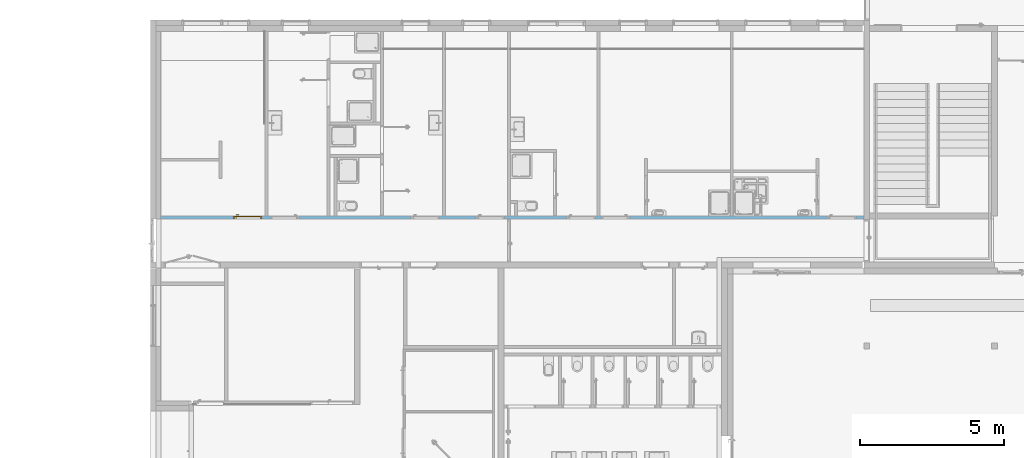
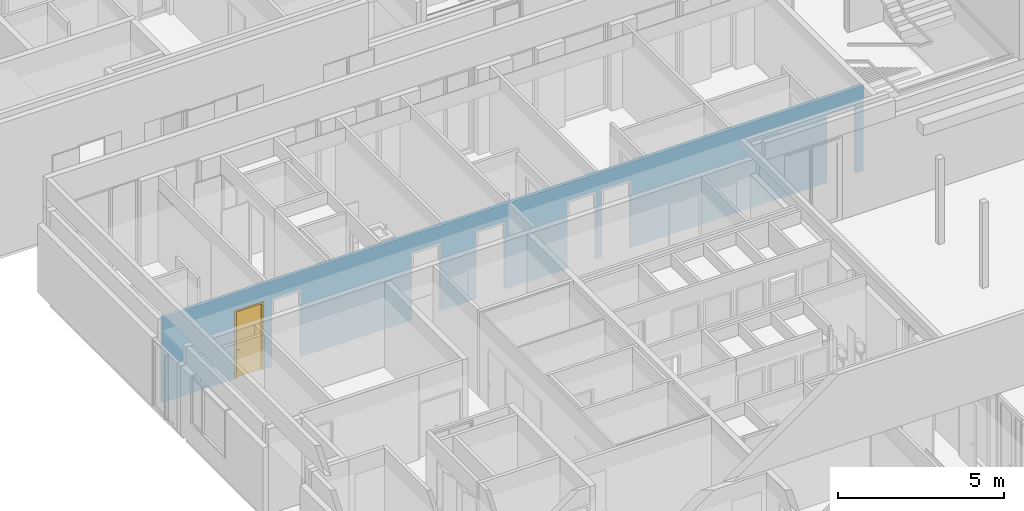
# One storey, part 108 of 240: 1 door, 7 openings, plus 1 element that does not belong to this part.
"""IFC2X3 building model written with IfcOpenShell, lengths in centimetres."""

from ifc_helpers import new_model, entity, si_unit, converted_unit, derived_unit, direction, frame, frame_2d, origin, place, context, subcontext, project, spatial, rectangle, extrude, faceted_brep, source, transform, mapped, material, material_list, layer, layer_set, layer_usage, type_object, type_shapes, element, fill, save


model = new_model("IFC2X3")

# Units and contexts
model_context = context("Model", 3, precision=0.001, world=origin(), true_north=direction((6.12303176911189e-17, 1.0)))
body_context = subcontext(model_context, "Body", "Model", "MODEL_VIEW")
ifc_project = project(units=[si_unit("LENGTHUNIT", "METRE", prefix="CENTI"), si_unit("AREAUNIT", "SQUARE_METRE"), si_unit("VOLUMEUNIT", "CUBIC_METRE"), converted_unit("PLANEANGLEUNIT", "DEGREE", entity("IfcRatioMeasure", 0.0174532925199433), si_unit("PLANEANGLEUNIT", "RADIAN"), dimensions=[0, 0, 0, 0, 0, 0, 0]), si_unit("MASSUNIT", "GRAM", prefix="KILO"), derived_unit("MASSDENSITYUNIT", [(si_unit("MASSUNIT", "GRAM", prefix="KILO"), 1), (si_unit("LENGTHUNIT", "METRE"), -3)]), si_unit("TIMEUNIT", "SECOND"), si_unit("FREQUENCYUNIT", "HERTZ"), si_unit("THERMODYNAMICTEMPERATUREUNIT", "DEGREE_CELSIUS"), derived_unit("THERMALTRANSMITTANCEUNIT", [(si_unit("MASSUNIT", "GRAM", prefix="KILO"), 1), (si_unit("THERMODYNAMICTEMPERATUREUNIT", "KELVIN"), -1), (si_unit("TIMEUNIT", "SECOND"), -3)]), derived_unit("VOLUMETRICFLOWRATEUNIT", [(si_unit("LENGTHUNIT", "METRE"), 3), (si_unit("TIMEUNIT", "SECOND"), -1)]), si_unit("ELECTRICCURRENTUNIT", "AMPERE"), si_unit("ELECTRICVOLTAGEUNIT", "VOLT"), si_unit("POWERUNIT", "WATT"), si_unit("FORCEUNIT", "NEWTON", prefix="KILO"), si_unit("ILLUMINANCEUNIT", "LUX"), si_unit("LUMINOUSFLUXUNIT", "LUMEN"), si_unit("LUMINOUSINTENSITYUNIT", "CANDELA"), derived_unit("USERDEFINED", [(si_unit("MASSUNIT", "GRAM", prefix="KILO"), -1), (si_unit("LENGTHUNIT", "METRE"), -2), (si_unit("TIMEUNIT", "SECOND"), 3), (si_unit("LUMINOUSFLUXUNIT", "LUMEN"), 1)]), derived_unit("LINEARVELOCITYUNIT", [(si_unit("LENGTHUNIT", "METRE"), 1), (si_unit("TIMEUNIT", "SECOND"), -1)]), si_unit("PRESSUREUNIT", "PASCAL"), derived_unit("USERDEFINED", [(si_unit("LENGTHUNIT", "METRE"), -2), (si_unit("MASSUNIT", "GRAM", prefix="KILO"), 1), (si_unit("TIMEUNIT", "SECOND"), -2)])], contexts=[model_context])

# Site, building, storey
site_placement = place(None, frame((-2781.94577612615, 7442.24238424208, 0.0)))
site = spatial("IfcSite", under=ifc_project, at=site_placement, Name="Default", CompositionType="ELEMENT")
building_placement = place(site_placement, origin())
building = spatial("IfcBuilding", under=site, at=building_placement, CompositionType="ELEMENT")
storey_placement = place(building_placement, origin())
storey = spatial("IfcBuildingStorey", under=building, at=storey_placement, Name="N00 - COO", CompositionType="ELEMENT", Elevation=0.0)

# Wall, openings, door
ifc_material_1 = material(Name="01 - Enduit/Plâtre")
ifc_layer_1 = layer(ifc_material_1, 1.3)
ifc_material_2 = material(Name="00 - Isolant")
ifc_layer_2 = layer(ifc_material_2, 7.4)
ifc_layer_3 = layer(ifc_material_1, 1.3)
ifc_layer_set = layer_set([ifc_layer_1, ifc_layer_2, ifc_layer_3], Name="Mur de base:06 - cloisons - Ba13 10cm")
ifc_layer_usage = layer_usage(ifc_layer_set, "AXIS2", "NEGATIVE", 5.0)
wall_type = type_object("IfcWallType", Name="Mur de base:06 - cloisons - Ba13 10cm", PredefinedType="STANDARD", material=ifc_layer_set)
wall_placement = place(building_placement, frame((-10866.3130476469, -1755.0, 0.0)))
wall = element("IfcWallStandardCase", 1, at=wall_placement, inside=storey, type_object=wall_type, material=ifc_layer_usage, Name="Mur de base:06 - cloisons - Ba13 10cm", ObjectType="Mur de base:06 - cloisons - Ba13 10cm", context=body_context, shape_type="SweptSolid", body=[
    extrude(rectangle(XDim=2435.48317594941, YDim=9.99999999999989, at=frame_2d((1217.7415879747, 3.37507799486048e-14), x_axis=(-1.0, 0.0))), origin(), (0.0, 0.0, 1.0), 313.0),
])
opening_1_placement = place(wall_placement, frame((2309.31316997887, -5.0, 0.0)))
element("IfcOpeningElement", 2, at=opening_1_placement, cuts=wall, Name="Int. Simple:PP simple (0.93m x 2.50m):1", ObjectType="Opening", context=body_context, shape_type="SweptSolid", body=[
    extrude(rectangle(XDim=248.500000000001, YDim=99.9999999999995, at=frame_2d((124.250000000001, 49.9999999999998), x_axis=(1.0, 0.0))), frame((0.0, 0.0, 0.0), z_axis=(0.0, 1.0, 0.0), x_axis=(0.0, 0.0, 1.0)), (0.0, 0.0, 1.0), 10.0),
])
opening_2_placement = place(wall_placement, frame((1527.31316997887, -5.0, 0.0)))
element("IfcOpeningElement", 3, at=opening_2_placement, cuts=wall, Name="Int. Simple:PP simple (0.93m x 2.50m):1", ObjectType="Opening", context=body_context, shape_type="SweptSolid", body=[
    extrude(rectangle(XDim=248.500000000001, YDim=99.9999999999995, at=frame_2d((124.250000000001, 50.0), x_axis=(1.0, 0.0))), frame((0.0, 0.0, 0.0), z_axis=(0.0, 1.0, 0.0), x_axis=(0.0, 0.0, 1.0)), (0.0, 0.0, 1.0), 10.0),
])
opening_3_placement = place(wall_placement, frame((1406.81316997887, -5.0, 0.0)))
element("IfcOpeningElement", 4, at=opening_3_placement, cuts=wall, Name="Int. Simple:PP simple (0.93m x 2.50m):1", ObjectType="Opening", context=body_context, shape_type="SweptSolid", body=[
    extrude(rectangle(XDim=248.500000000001, YDim=99.9999999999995, at=frame_2d((124.250000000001, 49.9999999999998), x_axis=(1.0, 0.0))), frame((0.0, 0.0, 0.0), z_axis=(0.0, 1.0, 0.0), x_axis=(0.0, 0.0, 1.0)), (0.0, 0.0, 1.0), 10.0),
])
opening_4_placement = place(wall_placement, frame((1091.81316997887, -5.0, 0.0)))
element("IfcOpeningElement", 5, at=opening_4_placement, cuts=wall, Name="Int. Simple:PP simple (0.93m x 2.50m):1", ObjectType="Opening", context=body_context, shape_type="SweptSolid", body=[
    extrude(rectangle(XDim=248.500000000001, YDim=99.9999999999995, at=frame_2d((124.250000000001, 49.9999999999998), x_axis=(1.0, 0.0))), frame((0.0, 0.0, 0.0), z_axis=(0.0, 1.0, 0.0), x_axis=(0.0, 0.0, 1.0)), (0.0, 0.0, 1.0), 10.0),
])
opening_5_placement = place(wall_placement, frame((866.813169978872, -5.0, 0.0)))
element("IfcOpeningElement", 6, at=opening_5_placement, cuts=wall, Name="Int. Simple:PP simple (0.93m x 2.50m):1", ObjectType="Opening", context=body_context, shape_type="SweptSolid", body=[
    extrude(rectangle(XDim=248.500000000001, YDim=99.9999999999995, at=frame_2d((124.250000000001, 49.9999999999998), x_axis=(1.0, 0.0))), frame((0.0, 0.0, 0.0), z_axis=(0.0, 1.0, 0.0), x_axis=(0.0, 0.0, 1.0)), (0.0, 0.0, 1.0), 10.0),
])
opening_6_placement = place(wall_placement, frame((381.813169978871, -5.0, 0.0)))
element("IfcOpeningElement", 7, at=opening_6_placement, cuts=wall, Name="Int. Simple:PP simple (0.93m x 2.50m):1", ObjectType="Opening", context=body_context, shape_type="SweptSolid", body=[
    extrude(rectangle(XDim=248.500000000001, YDim=99.9999999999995, at=frame_2d((124.250000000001, 50.0), x_axis=(1.0, 0.0))), frame((0.0, 0.0, 0.0), z_axis=(0.0, 1.0, 0.0), x_axis=(0.0, 0.0, 1.0)), (0.0, 0.0, 1.0), 10.0),
])
opening_7_placement = place(wall_placement, frame((251.813169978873, -5.0, 0.0)))
opening_7 = element("IfcOpeningElement", 8, at=opening_7_placement, cuts=wall, Name="Int. Simple:PP simple (0.93m x 2.50m):1", ObjectType="Opening", context=body_context, shape_type="SweptSolid", body=[
    extrude(rectangle(XDim=248.500000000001, YDim=99.9999999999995, at=frame_2d((124.250000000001, 49.9999999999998), x_axis=(1.0, 0.0))), frame((0.0, 0.0, 0.0), z_axis=(0.0, 1.0, 0.0), x_axis=(0.0, 0.0, 1.0)), (0.0, 0.0, 1.0), 10.0),
])
ifc_material_3 = material(Name="Finition Peinture - Blanc satiné")
ifc_material_4 = material(Name="Bois - Panneau de porte")
ifc_material_5 = material(Name="Bois - Cadre de porte")
ifc_material_list_1 = material_list([ifc_material_3, ifc_material_4, ifc_material_5])
ifc_material_list_2 = material_list([ifc_material_3, ifc_material_4, ifc_material_5])
door_style = type_object("IfcDoorStyle", Name="PP simple (0.93m x 2.50m)", ConstructionType="NOTDEFINED", OperationType="SINGLE_SWING_RIGHT", ParameterTakesPrecedence=False, Sizeable=False, material=ifc_material_list_2)
shared_shape = source(origin(), body_context, "Body", "Brep", [
    faceted_brep([(99.5000000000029, -0.500000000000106, 87.0), (99.5000000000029, -0.500000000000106, 108.0), (98.535276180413, -0.500000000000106, 108.399601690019), (97.5000000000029, -0.500000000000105, 108.535898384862), (96.4647238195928, -0.500000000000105, 108.399601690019), (95.500000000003, -0.500000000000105, 108.0), (95.5000000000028, -0.500000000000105, 87.0), (96.4647238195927, -0.500000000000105, 86.6003983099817), (97.5000000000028, -0.500000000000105, 86.464101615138), (98.5352761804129, -0.500000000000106, 86.6003983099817), (99.5000000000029, 0.0, 108.0), (99.5000000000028, 0.0, 87.0), (98.5352761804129, 0.0, 86.6003983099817), (97.5000000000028, 0.0, 86.464101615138), (96.4647238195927, 0.0, 86.6003983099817), (95.5000000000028, 0.0, 87.0), (95.5000000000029, 0.0, 108.0), (96.4647238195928, 0.0, 108.399601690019), (97.5000000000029, 0.0, 108.535898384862), (98.535276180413, 0.0, 108.399601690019)], [[[0, 1, 2, 3, 4, 5, 6, 7, 8, 9]], [[10, 11, 12, 13, 14, 15, 16, 17, 18, 19]], [[9, 12, 11, 0]], [[8, 13, 12, 9]], [[7, 14, 13, 8]], [[7, 6, 15, 14]], [[15, 6, 5, 16]], [[4, 17, 16, 5]], [[3, 18, 17, 4]], [[2, 19, 18, 3]], [[2, 1, 10, 19]], [[11, 10, 1, 0]]]),
    faceted_brep([(99.5000000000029, 4.0, 87.0), (99.5000000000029, 4.0, 108.0), (98.535276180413, 4.0, 108.399601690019), (97.5000000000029, 4.0, 108.535898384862), (96.4647238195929, 4.0, 108.399601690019), (95.500000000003, 4.0, 108.0), (95.5000000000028, 4.0, 87.0), (96.4647238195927, 4.0, 86.6003983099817), (97.5000000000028, 4.0, 86.464101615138), (98.5352761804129, 4.0, 86.6003983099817), (97.5000000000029, 4.49999999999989, 108.535898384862), (98.535276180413, 4.49999999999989, 108.399601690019), (99.5000000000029, 4.49999999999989, 108.0), (99.5000000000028, 4.49999999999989, 87.0), (98.5352761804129, 4.49999999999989, 86.6003983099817), (97.5000000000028, 4.49999999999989, 86.464101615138), (96.4647238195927, 4.49999999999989, 86.6003983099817), (95.5000000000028, 4.49999999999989, 87.0), (95.500000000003, 4.49999999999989, 108.0), (96.4647238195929, 4.49999999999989, 108.399601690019)], [[[0, 1, 2, 3, 4, 5, 6, 7, 8, 9]], [[10, 11, 12, 13, 14, 15, 16, 17, 18, 19]], [[4, 19, 18, 5]], [[3, 10, 19, 4]], [[2, 11, 10, 3]], [[2, 1, 12, 11]], [[13, 12, 1, 0]], [[9, 14, 13, 0]], [[8, 15, 14, 9]], [[7, 16, 15, 8]], [[7, 6, 17, 16]], [[17, 6, 5, 18]]]),
    faceted_brep([(97.2974701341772, -0.50000000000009, 100.778044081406), (97.7025298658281, -0.500000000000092, 100.778044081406), (98.1000000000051, -0.500000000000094, 100.699999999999), (98.100000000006, -0.500000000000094, 99.2999999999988), (97.7025298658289, -0.500000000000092, 99.221955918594), (97.297470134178, -0.50000000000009, 99.2219559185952), (96.9000000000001, -0.500000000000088, 99.3000000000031), (96.9000000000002, -0.500000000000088, 100.7), (97.7025298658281, -3.10045754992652, 100.778044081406), (98.1000000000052, -3.26509507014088, 100.7), (97.2974701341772, -2.93267631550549, 100.778044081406), (95.9298602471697, -4.30028620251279, 100.778044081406), (96.0976414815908, -4.70534593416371, 100.778044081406), (96.9000000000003, -2.76803879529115, 100.7), (96.9000000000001, -2.76803879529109, 99.3000000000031), (97.297470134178, -2.93267631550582, 99.2219559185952), (97.7025298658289, -3.10045754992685, 99.221955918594), (96.0976414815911, -4.70534593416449, 99.221955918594), (95.9298602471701, -4.30028620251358, 99.2219559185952), (98.100000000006, -3.26509507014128, 99.2999999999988), (96.2622790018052, -5.10281606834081, 100.7), (95.7652227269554, -3.90281606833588, 100.7), (95.7652227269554, -3.90281606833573, 99.3000000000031), (96.2622790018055, -5.10281606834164, 99.2999999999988), (87.4981359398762, -5.10281606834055, 100.7), (87.4981359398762, -4.70534593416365, 100.778044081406), (87.4981359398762, -4.30028620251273, 100.778044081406), (87.4981359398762, -3.90281606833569, 100.699999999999), (87.4981359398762, -3.90281606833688, 99.3000000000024), (87.4981359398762, -4.30028620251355, 99.2219559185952), (87.4981359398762, -4.70534593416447, 99.221955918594), (87.4981359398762, -5.10281606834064, 99.2999999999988), (91.7139980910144, -4.5028160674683, 100.78786867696), (92.2692302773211, -5.1028160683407, 100.7), (91.6316793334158, -3.9028160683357, 100.7), (91.631679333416, -3.9028160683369, 99.3000000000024), (91.7139981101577, -4.50281607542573, 99.2121313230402), (92.2692310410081, -5.10281606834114, 99.2999999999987)], [[[0, 1, 2, 3, 4, 5, 6, 7]], [[2, 1, 8, 9]], [[1, 0, 10, 11, 12, 8]], [[0, 7, 13, 10]], [[14, 13, 7, 6]], [[5, 15, 14, 6]], [[5, 4, 16, 17, 18, 15]], [[3, 19, 16, 4]], [[9, 19, 3, 2]], [[9, 8, 12, 20]], [[10, 13, 21, 11]], [[22, 21, 13, 14]], [[14, 15, 18, 22]], [[16, 19, 23, 17]], [[20, 23, 19, 9]], [[24, 25, 26, 27, 28, 29, 30, 31]], [[32, 25, 33]], [[33, 25, 24]], [[33, 20, 12]], [[11, 34, 32]], [[34, 11, 21]], [[27, 26, 34]], [[32, 26, 25]], [[32, 34, 26]], [[32, 33, 12]], [[11, 32, 12]], [[21, 22, 35, 28, 27, 34]], [[36, 29, 35]], [[30, 36, 37]], [[18, 35, 22]], [[29, 28, 35]], [[30, 37, 31]], [[37, 17, 23]], [[36, 17, 37]], [[36, 18, 17]], [[36, 35, 18]], [[29, 36, 30]], [[23, 20, 33, 24, 31, 37]]]),
    faceted_brep([(97.2974701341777, 4.49999999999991, 99.2219559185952), (97.7025298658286, 4.49999999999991, 99.221955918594), (98.1000000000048, 4.4999999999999, 99.2999999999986), (98.1000000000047, 4.4999999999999, 100.7), (97.7025298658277, 4.49999999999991, 100.778044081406), (97.2974701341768, 4.49999999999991, 100.778044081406), (96.8999999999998, 4.49999999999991, 100.7), (96.900000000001, 4.49999999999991, 99.3000000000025), (96.8999999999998, 6.7485204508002, 100.7), (96.8999999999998, 6.74852045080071, 99.3000000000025), (97.2974701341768, 6.91315797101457, 100.778044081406), (97.7025298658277, 7.0809392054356, 100.778044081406), (96.0838906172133, 8.69957845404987, 100.778044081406), (95.9161093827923, 8.29451872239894, 100.778044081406), (98.1000000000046, 7.24557672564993, 100.7), (98.1000000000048, 7.24557672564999, 99.2999999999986), (97.7025298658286, 7.08093920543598, 99.221955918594), (97.2974701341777, 6.91315797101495, 99.2219559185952), (95.9161093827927, 8.29451872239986, 99.2219559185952), (96.0838906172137, 8.69957845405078, 99.221955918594), (95.751471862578, 7.89704858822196, 100.7), (95.7514718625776, 7.89704858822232, 99.3000000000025), (96.2485281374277, 9.09704858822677, 100.7), (96.2485281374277, 9.09704858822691, 99.2999999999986), (87.4954216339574, 8.29451872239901, 100.778044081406), (87.4954216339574, 8.69957845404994, 100.778044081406), (87.4954216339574, 9.09704858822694, 100.7), (87.4954216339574, 9.09704858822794, 99.2999999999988), (87.4954216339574, 8.6995784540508, 99.221955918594), (87.4954216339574, 8.29451872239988, 99.2219559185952), (87.4954216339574, 7.89704858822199, 99.3000000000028), (87.4954216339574, 7.89704858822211, 100.7), (91.6234467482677, 7.89704858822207, 100.7), (91.6234479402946, 7.89704858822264, 99.3000000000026), (91.7057655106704, 8.49704858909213, 100.78786867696), (92.255479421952, 9.09704858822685, 100.7), (92.2554795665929, 9.09704858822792, 99.2999999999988), (91.7057654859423, 8.49704858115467, 99.2121313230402)], [[[0, 1, 2, 3, 4, 5, 6, 7]], [[8, 9, 7, 6]], [[5, 10, 8, 6]], [[5, 4, 11, 12, 13, 10]], [[3, 14, 11, 4]], [[14, 3, 2, 15]], [[2, 1, 16, 15]], [[1, 0, 17, 18, 19, 16]], [[0, 7, 9, 17]], [[20, 21, 9, 8]], [[8, 10, 13, 20]], [[14, 22, 12, 11]], [[23, 22, 14, 15]], [[15, 16, 19, 23]], [[17, 9, 21, 18]], [[24, 25, 26, 27, 28, 29, 30, 31]], [[21, 20, 32, 31, 30, 33]], [[34, 24, 32]], [[25, 34, 35]], [[13, 32, 20]], [[24, 31, 32]], [[25, 35, 26]], [[35, 12, 22]], [[34, 12, 35]], [[34, 13, 12]], [[34, 32, 13]], [[24, 34, 25]], [[22, 23, 36, 27, 26, 35]], [[37, 28, 36]], [[36, 28, 27]], [[36, 23, 19]], [[18, 33, 37]], [[33, 18, 21]], [[30, 29, 33]], [[37, 29, 28]], [[37, 33, 29]], [[37, 36, 19]], [[18, 37, 19]]]),
    faceted_brep([(103.500000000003, 4.0, 245.0), (103.500000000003, 4.0, 0.0), (10.5000000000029, 4.0, 0.0), (10.5000000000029, 4.0, 245.0), (103.500000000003, 0.0, 245.0), (10.5000000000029, 0.0, 245.0), (10.5000000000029, 0.0, 0.0), (103.500000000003, 0.0, 0.0)], [[[0, 1, 2, 3]], [[4, 5, 6, 7]], [[3, 5, 4, 0]], [[2, 6, 5, 3]], [[1, 7, 6, 2]], [[0, 4, 7, 1]]]),
    faceted_brep([(107.0, 10.0, 0.0), (107.0, 0.0, 0.0), (108.500000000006, 0.0, 0.0), (108.500000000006, -0.500000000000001, 0.0), (103.500000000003, -0.500000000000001, 0.0), (103.500000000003, 4.0, 0.0), (102.0, 4.0, 0.0), (102.0, 10.5000000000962, 0.0), (108.500000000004, 10.5000000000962, 0.0), (108.500000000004, 10.0, 0.0), (107.0, 10.0, 248.500000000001), (107.0, 0.0, 248.500000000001), (108.500000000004, 10.0, 250.0), (5.50000000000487, 10.0, 250.0), (5.50000000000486, 10.0, 0.0), (7.0, 10.0, 0.0), (7.0, 10.0, 248.500000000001), (102.0, 4.0, 243.5), (102.0, 10.5000000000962, 243.5), (103.500000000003, 4.0, 245.0), (10.5000000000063, 4.0, 245.0), (10.5000000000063, 4.0, 0.0), (12.0, 4.0, 0.0), (12.0, 4.0, 243.5), (7.0, 0.0, 0.0), (7.0, 0.0, 248.500000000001), (5.50000000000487, 10.5000000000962, 0.0), (12.0, 10.5000000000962, 0.0), (10.5000000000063, -0.500000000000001, 0.0), (5.5000000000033, -0.500000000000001, 0.0), (5.5000000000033, 0.0, 0.0), (12.0, 10.5000000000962, 243.5), (103.500000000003, -0.500000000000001, 245.0), (108.500000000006, -0.500000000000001, 250.0), (5.5000000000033, -0.500000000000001, 250.0), (10.5000000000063, -0.500000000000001, 245.0), (108.500000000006, 0.0, 250.0), (5.50000000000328, 0.0, 250.0), (108.500000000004, 10.5000000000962, 250.0), (5.50000000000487, 10.5000000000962, 250.0)], [[[0, 1, 2, 3, 4, 5, 6, 7, 8, 9]], [[0, 10, 11, 1]], [[9, 12, 13, 14, 15, 16, 10, 0]], [[7, 6, 17, 18]], [[5, 19, 20, 21, 22, 23, 17, 6]], [[16, 15, 24, 25]], [[15, 14, 26, 27, 22, 21, 28, 29, 30, 24]], [[23, 22, 27, 31]], [[10, 16, 25, 11]], [[17, 23, 31, 18]], [[5, 4, 32, 19]], [[3, 33, 34, 29, 28, 35, 32, 4]], [[2, 36, 33, 3]], [[1, 11, 25, 24, 30, 37, 36, 2]], [[8, 38, 12, 9]], [[7, 18, 31, 27, 26, 39, 38, 8]], [[35, 28, 21, 20]], [[37, 30, 29, 34]], [[39, 26, 14, 13]], [[32, 35, 20, 19]], [[36, 37, 34, 33]], [[38, 39, 13, 12]]]),
])
type_shapes(door_style, [shared_shape])
door_placement = place(opening_7_placement, frame((107.0, 10.0, 0.0), z_axis=(0.0, 0.0, 1.0), x_axis=(-1.0, 0.0, 0.0)))
door = element("IfcDoor", 9, at=door_placement, inside=storey, type_object=door_style, material=ifc_material_list_1, Name="Int. Simple:PP simple (0.93m x 2.50m)", ObjectType="Int. Simple:PP simple (0.93m x 2.50m)", OverallHeight=248.500000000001, OverallWidth=99.9999999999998, context=body_context, shape_type="MappedRepresentation", body=[
    mapped(shared_shape, transform((0.0, 0.0, 0.0), scale=1.0)),
])
fill(opening_7, door)

save(model, "model.ifc")
